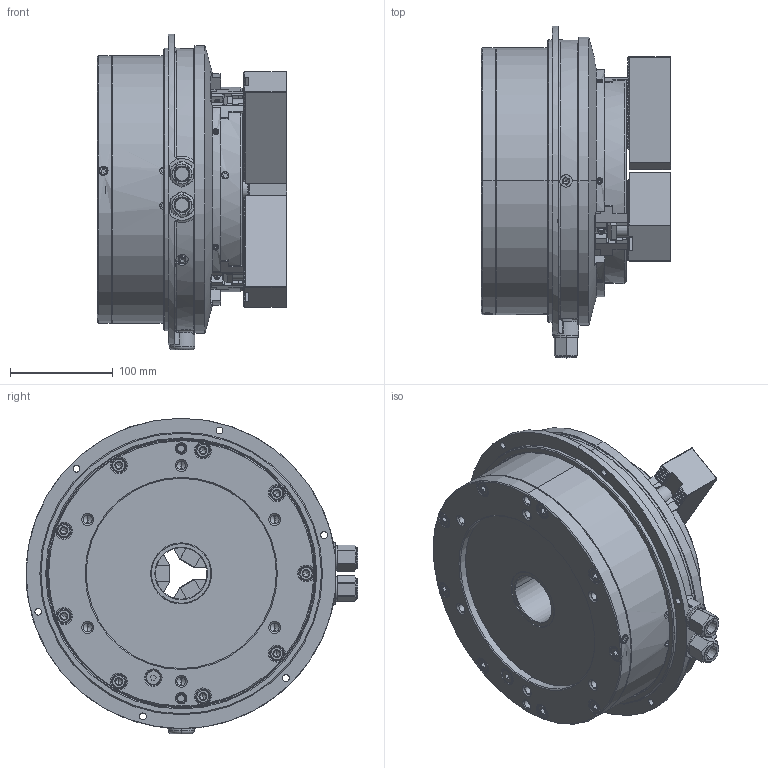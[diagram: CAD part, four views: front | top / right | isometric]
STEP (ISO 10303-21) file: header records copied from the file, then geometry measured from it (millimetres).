
FILE_DESCRIPTION (( 'STEP AP214' ), '1' );
FILE_NAME ('DEV-UVE200K-HCL.STEP', '2024-10-02T23:57:52', ( '' ), ( '' ), 'SwSTEP 2.0', 'SolidWorks 2022', '' );
FILE_SCHEMA (( 'AUTOMOTIVE_DESIGN' ));
Length unit declared in the file: millimetre
Products named in the file (6): DEV-UVE200K-HCL; Part1^DEV-UVE200K-クミタテ; Copy of P31633^DEV-UVE200K-クミタテ; Copy of 0030112030^DEV-UVE200K-クミタテ; Copy of 61P401335^DEV-UVE200K-クミタテ; Copy of 0693000003^DEV-UVE200K-クミタテ
Assembly tree (18 placements, depth 2):
  DEV-UVE200K-HCL
    Copy of P31633^DEV-UVE200K-クミタテ  x3
    Copy of 61P401335^DEV-UVE200K-クミタテ  x6
    Copy of 0030112030^DEV-UVE200K-クミタテ  x6
    Copy of 0693000003^DEV-UVE200K-クミタテ  x2
    Part1^DEV-UVE200K-クミタテ
Bounding box: 184.45 x 323 x 307 mm (x, y, z)
Volume: 7182040.2 mm3; surface area: 491479 mm2
Topology: 18 solids, 47 shells, 4999 faces, 13849 edges, 9048 vertices
Faces by surface type: plane 3137, cylinder 978, cone 548, bspline 257, torus 59, sphere 20
Entity records: 138133 total; most frequent: CARTESIAN_POINT 43125, ORIENTED_EDGE 21452, DIRECTION 17315, EDGE_CURVE 10726, VERTEX_POINT 7033, LINE 7009, VECTOR 7009, AXIS2_PLACEMENT_3D 5153
